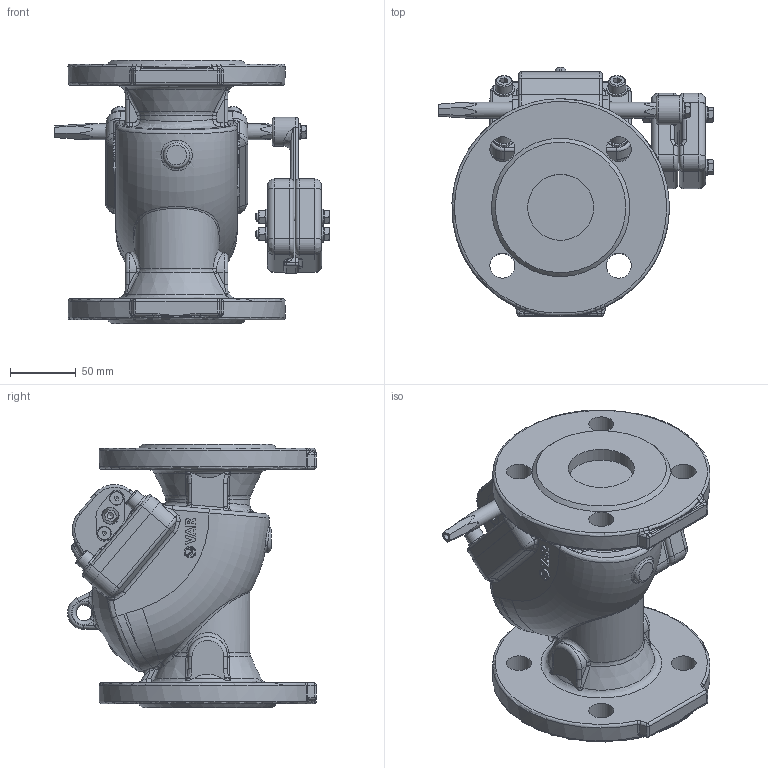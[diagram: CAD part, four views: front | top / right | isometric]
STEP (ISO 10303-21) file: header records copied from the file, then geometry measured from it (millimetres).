
FILE_DESCRIPTION(('STEP AP203'), '1');
FILE_NAME('VAR LIMU-STOP Îáðàòíûé êëàïàí DN 50 PN 16 c ðû÷àãîì è ïðîòèâîâåñîì', '2026-06-28T08:29:24', (' '), (' '), 'C3D Converter', 'C3D Toolkit', '');
FILE_SCHEMA(('CONFIG_CONTROL_DESIGN'));
Length unit declared in the file: millimetre
Products named in the file (1): Admi0C102497dklh
Bounding box: 208.4 x 188.98 x 200 mm (x, y, z)
Volume: 2264831.6 mm3; surface area: 205935.3 mm2
Topology: 1 solids, 13 shells, 1072 faces, 2730 edges, 1711 vertices
Faces by surface type: plane 369, cylinder 231, bspline 192, extrusion 134, torus 83, cone 43, sphere 20
Full cylindrical faces by diameter (mm): 4.917 x2, 5 x4, 5.5 x4, 6 x7, 6.4 x5, 6.647 x2, 8 x4, 8.4 x7, 9.076 x1, 10 x4, 12 x8, 13 x6, 16 x4, 19 x8, 22 x1, 50 x2
Entity records: 70701 total; most frequent: CARTESIAN_POINT 39870, ORIENTED_EDGE 5128, DIRECTION 3712, EDGE_CURVE 2564, VERTEX_POINT 1683, AXIS2_PLACEMENT_3D 1319, EDGE_LOOP 1283, FACE_BOUND 1191
